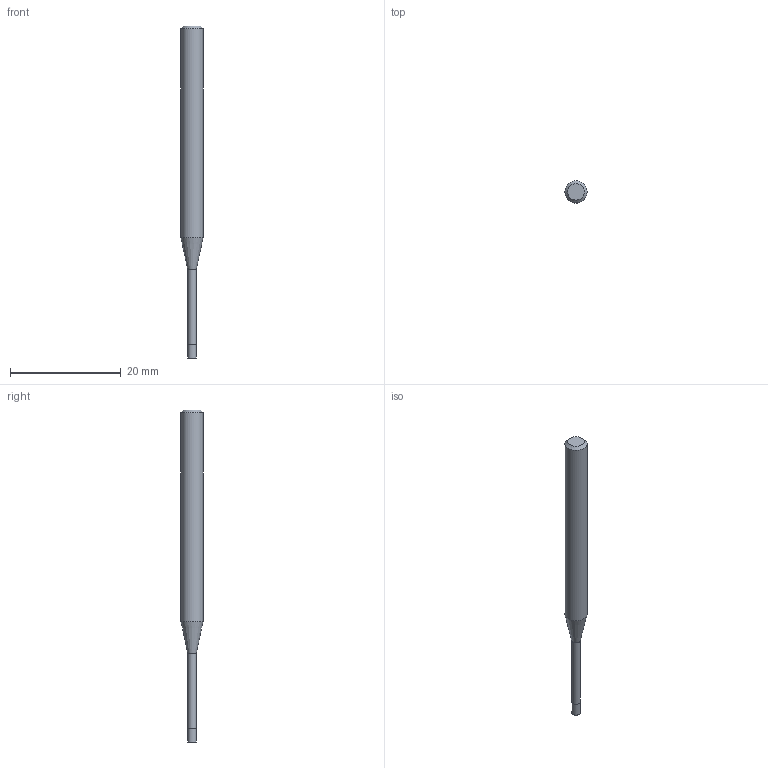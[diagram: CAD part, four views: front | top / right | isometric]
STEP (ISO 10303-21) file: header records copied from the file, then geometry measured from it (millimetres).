
FILE_DESCRIPTION((''),'2;1');
FILE_NAME('C:\Users\nsx150\AppData\Local\Temp\Mastercam 2021\17T8Q8S9EB\TEMP.step','2021-04-21T16:15:07',(''),(''),'STEP Write','Mastercam 2021 ... CNC Software, Inc.','');
FILE_SCHEMA(('AUTOMOTIVE_DESIGN'));
Length unit declared in the file: millimetre
Products named in the file (1): None
Bounding box: 4 x 4 x 60 mm (x, y, z)
Volume: 546.7 mm3; surface area: 624.6 mm2
Topology: 2 solids, 2 shells, 9 faces, 12 edges, 7 vertices
Faces by surface type: plane 4, cylinder 3, cone 2
Full cylindrical faces by diameter (mm): 1.55 x1, 1.6 x1, 4 x1
Entity records: 211 total; most frequent: DIRECTION 36, CARTESIAN_POINT 25, AXIS2_PLACEMENT_3D 18, ORIENTED_EDGE 14, EDGE_LOOP 14, STYLED_ITEM 12, ADVANCED_FACE 9, FACE_BOUND 8
